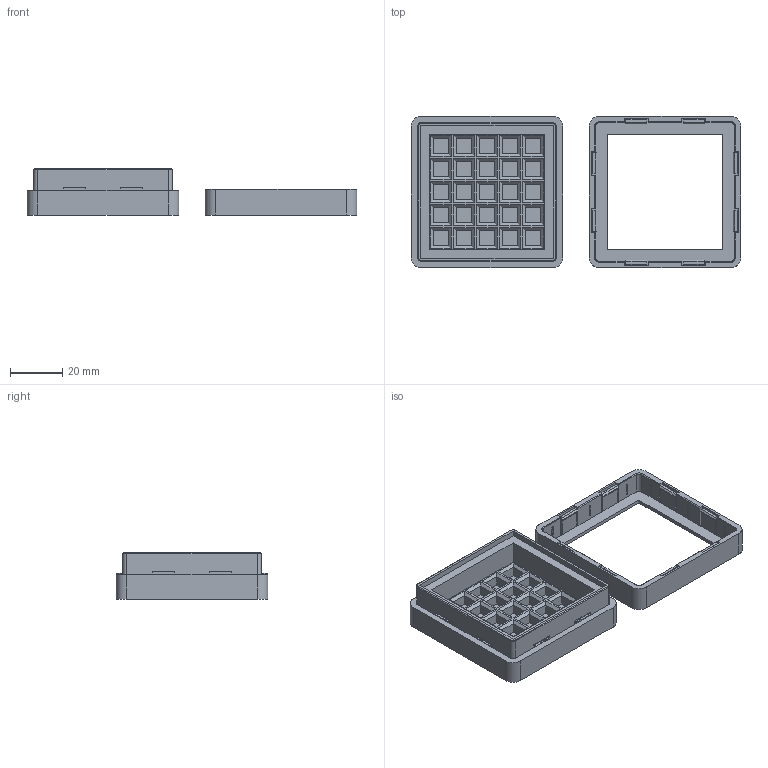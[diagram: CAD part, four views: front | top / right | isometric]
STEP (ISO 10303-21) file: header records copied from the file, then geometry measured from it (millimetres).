
FILE_DESCRIPTION(('FreeCAD Model'),'2;1');
FILE_NAME('Open CASCADE Shape Model','2026-10-10T16:21:43',(''),(''), 'Open CASCADE STEP processor 7.8','FreeCAD','Unknown');
FILE_SCHEMA(('AUTOMOTIVE_DESIGN { 1 0 10303 214 1 1 1 1 }'));
Length unit declared in the file: millimetre
Products named in the file (2): Print_Layout_Base; Print_Layout_Lid
Bounding box: 126 x 58 x 17.6 mm (x, y, z)
Volume: 32445.3 mm3; surface area: 23791.9 mm2
Topology: 2 solids, 2 shells, 690 faces, 1696 edges, 1084 vertices
Faces by surface type: bspline 690
Entity records: 42758 total; most frequent: CARTESIAN_POINT 20181, B_SPLINE_CURVE_WITH_KNOTS 5016, ORIENTED_EDGE 3392, PCURVE 3392, DEFINITIONAL_REPRESENTATION 3392, EDGE_CURVE 1696, SURFACE_CURVE 1696, VERTEX_POINT 1084
